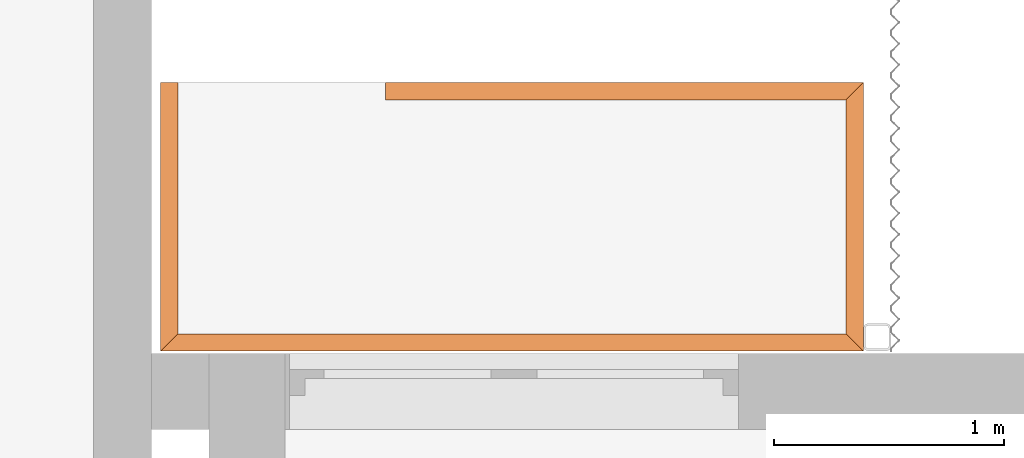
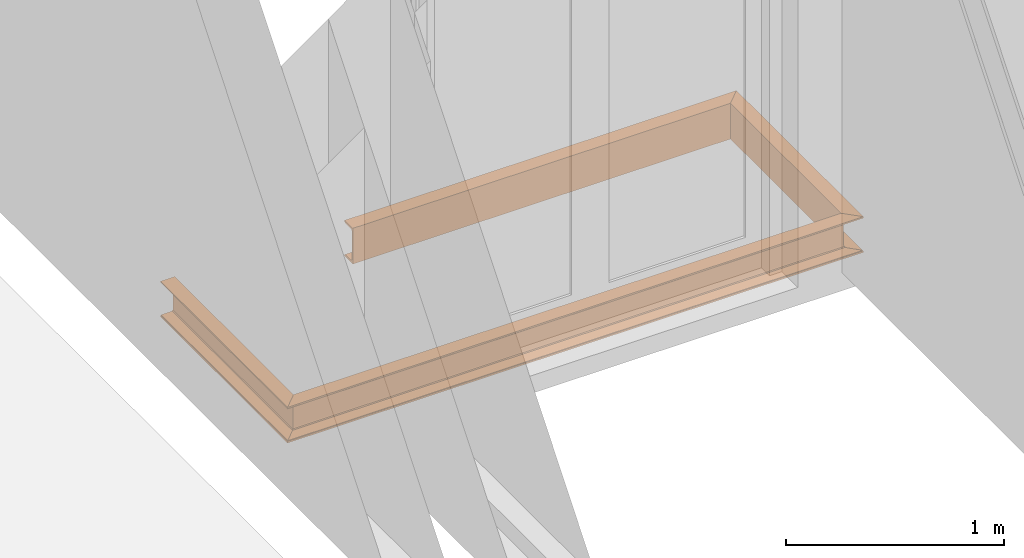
# One storey, part 93 of 99: 4 proxies.
"""IFC2X3 building model written with IfcOpenShell, lengths in millimetres."""

from ifc_helpers import new_model, entity, si_unit, converted_unit, derived_unit, money_unit, direction, frame, origin_with_axes, place, context, subcontext, project, spatial, faceted_brep, material, type_object, element, save


model = new_model("IFC2X3")

# Units and contexts
model_context = context("Model", 3, precision=0.01, world=origin_with_axes(), true_north=direction((0.0, 1.0)))
body_context = subcontext(model_context, "Body", "Model", "MODEL_VIEW")
ifc_project = project(units=[si_unit("LENGTHUNIT", "METRE", prefix="MILLI"), si_unit("AREAUNIT", "SQUARE_METRE"), si_unit("VOLUMEUNIT", "CUBIC_METRE"), converted_unit("PLANEANGLEUNIT", "DEGREE", entity("IfcPlaneAngleMeasure", 0.0174532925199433), si_unit("PLANEANGLEUNIT", "RADIAN"), dimensions=[0, 0, 0, 0, 0, 0, 0]), money_unit("EUR"), converted_unit("TIMEUNIT", "Year", entity("IfcTimeMeasure", 31557600.0), si_unit("TIMEUNIT", "SECOND"), dimensions=[0, 0, 1, 0, 0, 0, 0]), si_unit("MASSUNIT", "GRAM", prefix="KILO"), si_unit("THERMODYNAMICTEMPERATUREUNIT", "DEGREE_CELSIUS"), si_unit("LUMINOUSINTENSITYUNIT", "LUMEN"), si_unit("ENERGYUNIT", "JOULE", prefix="MEGA"), derived_unit("THERMALCONDUCTANCEUNIT", [(si_unit("POWERUNIT", "WATT"), 1), (si_unit("LENGTHUNIT", "METRE"), -1), (si_unit("THERMODYNAMICTEMPERATUREUNIT", "KELVIN"), -1)]), derived_unit("SPECIFICHEATCAPACITYUNIT", [(si_unit("ENERGYUNIT", "JOULE"), 1), (si_unit("MASSUNIT", "GRAM", prefix="KILO"), -1), (si_unit("THERMODYNAMICTEMPERATUREUNIT", "KELVIN"), -1)]), derived_unit("MASSDENSITYUNIT", [(si_unit("MASSUNIT", "GRAM", prefix="KILO"), 1), (si_unit("VOLUMEUNIT", "CUBIC_METRE"), -1)])], contexts=[model_context])

# Site, building, storey
site_placement = place(None, origin_with_axes())
site = spatial("IfcSite", under=ifc_project, at=site_placement, Name="Site", CompositionType="ELEMENT")
building_placement = place(site_placement, origin_with_axes())
building = spatial("IfcBuilding", under=site, at=building_placement, Name="Naam gebouw", CompositionType="ELEMENT")
storey_placement = place(building_placement, frame((0.0, 0.0, 7650.0), z_axis=(0.0, 0.0, 1.0), x_axis=(1.0, 0.0, 0.0)))
storey = spatial("IfcBuildingStorey", under=building, at=storey_placement, Name="2e verdieping N", CompositionType="ELEMENT", Elevation=7650.0)

# Proxies
ifc_material = material(Name="Metaal - Staal AFW")
building_element_proxy_type = type_object("IfcBuildingElementProxyType", Name="UPN balk 27", PredefinedType="NOTDEFINED")
proxy_1_placement = place(storey_placement, frame((-1272.499999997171, 20373.32979156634, -200.0000000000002), z_axis=(0.0, 0.0, 1.0), x_axis=(0.0, 1.0, 0.0)))
element("IfcBuildingElementProxy", 1, at=proxy_1_placement, inside=storey, type_object=building_element_proxy_type, material=ifc_material, Name="_Boom-x", context=body_context, shape_type="Brep", body=[
    faceted_brep([(0.0, 0.0, 200.0), (37.49999999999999, -37.5, 200.0), (1127.499999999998, -37.50000000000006, 200.0000000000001), (1127.499999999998, 37.49999999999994, 200.0000000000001), (-37.49999999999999, 37.50000000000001, 200.0), (0.0, 0.0, 188.5), (17.49999999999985, -17.5, 188.5), (23.24999999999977, -23.25, 186.959292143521), (27.45929214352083, -27.45929214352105, 182.75), (28.99999999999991, -29.0, 177.0), (28.99999999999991, -29.0, 23.00000000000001), (27.45929214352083, -27.45929214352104, 17.25), (23.24999999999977, -23.25, 13.04070785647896), (17.49999999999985, -17.5, 11.50000000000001), (0.0, 0.0, 11.50000000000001), (-31.49999999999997, 31.5, 11.49999999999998), (-34.49999999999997, 34.5, 10.69615242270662), (-36.69615242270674, 36.69615242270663, 8.499999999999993), (-37.49999999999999, 37.50000000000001, 5.499999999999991), (-37.49999999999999, 37.50000000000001, 0.0), (0.0, 0.0, 0.0), (37.49999999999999, -37.5, 0.0), (-37.49999999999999, 37.50000000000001, 194.5000000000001), (-36.69615242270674, 36.69615242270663, 191.5000000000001), (-34.49999999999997, 34.5, 189.3038475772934), (-31.49999999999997, 31.5, 188.5000000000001), (1127.499999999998, -37.50000000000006, 0.0), (1127.499999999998, 34.49999999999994, 189.3038475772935), (1127.499999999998, 36.69615242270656, 191.5000000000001), (1127.499999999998, 37.49999999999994, 194.5000000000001), (1127.499999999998, 37.49999999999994, 0.0), (1127.499999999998, 37.49999999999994, 5.50000000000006), (1127.499999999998, 36.69615242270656, 8.500000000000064), (1127.499999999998, 34.49999999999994, 10.69615242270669), (1127.499999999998, 31.49999999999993, 11.50000000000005), (1127.499999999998, -17.50000000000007, 11.50000000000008), (1127.499999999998, -23.25000000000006, 13.04070785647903), (1127.499999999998, -27.45929214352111, 17.25000000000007), (1127.499999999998, -29.00000000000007, 23.00000000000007), (1127.499999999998, -29.00000000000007, 177.0000000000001), (1127.499999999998, -27.45929214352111, 182.7500000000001), (1127.499999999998, -23.25000000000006, 186.9592921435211), (1127.499999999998, -17.50000000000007, 188.5000000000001), (1127.499999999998, 31.49999999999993, 188.5000000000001)], [[[0, 1, 2, 3, 4]], [[5, 6, 7, 8, 9, 10, 11, 12, 13, 14, 15, 16, 17, 18, 19, 20, 21, 1, 0, 4, 22, 23, 24, 25]], [[1, 21, 26, 2]], [[27, 28, 29, 3, 2, 26, 30, 31, 32, 33, 34, 35, 36, 37, 38, 39, 40, 41, 42, 43]], [[4, 3, 29, 22]], [[6, 5, 25, 43, 42]], [[7, 6, 42, 41]], [[8, 7, 41, 40]], [[9, 8, 40, 39]], [[10, 9, 39, 38]], [[11, 10, 38, 37]], [[12, 11, 37, 36]], [[13, 12, 36, 35]], [[14, 13, 35, 34, 15]], [[15, 34, 33, 16]], [[16, 33, 32, 17]], [[17, 32, 31, 18]], [[18, 31, 30, 19]], [[21, 20, 19, 30, 26]], [[22, 29, 28, 23]], [[23, 28, 27, 24]], [[24, 27, 43, 25]]]),
])
proxy_2_placement = place(storey_placement, frame((-1272.499999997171, 20373.32979156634, -200.0000000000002), z_axis=(0.0, 0.0, 1.0), x_axis=(-1.0, 0.0, 0.0)))
element("IfcBuildingElementProxy", 2, at=proxy_2_placement, inside=storey, type_object=building_element_proxy_type, material=ifc_material, Name="_Boom-x", context=body_context, shape_type="Brep", body=[
    faceted_brep([(-2937.499999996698, -37.50000000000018, 200.0000000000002), (-37.50000000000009, -37.49999999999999, 200.0), (37.49999999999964, 37.50000000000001, 200.0), (-3012.499999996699, 37.49999999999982, 200.0000000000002), (-2974.999999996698, 0.0, 200.0000000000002), (-2937.499999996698, -37.50000000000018, 0.0), (-37.50000000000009, -37.49999999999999, 0.0), (37.49999999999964, 37.50000000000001, 0.0), (37.49999999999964, 37.50000000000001, 5.499999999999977), (36.69615242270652, 36.69615242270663, 8.49999999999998), (34.49999999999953, 34.5, 10.69615242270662), (31.50000000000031, 31.5, 11.49999999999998), (-17.50000000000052, -17.5, 11.5), (-23.25000000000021, -23.25, 13.04070785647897), (-27.45929214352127, -27.45929214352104, 17.25000000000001), (-29.00000000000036, -29.0, 23.00000000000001), (-29.00000000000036, -29.0, 177.0), (-27.45929214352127, -27.45929214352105, 182.75), (-23.25000000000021, -23.25, 186.959292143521), (-17.50000000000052, -17.5, 188.5), (31.50000000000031, 31.5, 188.5), (34.49999999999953, 34.5, 189.3038475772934), (36.69615242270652, 36.69615242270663, 191.5), (37.49999999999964, 37.50000000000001, 194.5), (-3012.499999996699, 37.49999999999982, 194.5000000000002), (-2974.999999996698, 0.0, 11.50000000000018), (-3006.499999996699, 31.49999999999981, 11.50000000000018), (-3009.499999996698, 34.49999999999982, 10.69615242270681), (-3011.696152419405, 36.69615242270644, 8.500000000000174), (-3012.499999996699, 37.49999999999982, 5.500000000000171), (-3012.499999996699, 37.49999999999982, 0.0), (-2974.999999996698, 0.0, 0.0), (-3011.696152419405, 36.69615242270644, 191.5000000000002), (-3009.499999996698, 34.49999999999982, 189.3038475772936), (-3006.499999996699, 31.49999999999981, 188.5000000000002), (-2974.999999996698, 0.0, 188.5000000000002), (-2957.499999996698, -17.50000000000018, 188.5000000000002), (-2951.749999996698, -23.25000000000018, 186.9592921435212), (-2947.540707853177, -27.45929214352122, 182.7500000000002), (-2945.999999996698, -29.00000000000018, 177.0000000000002), (-2945.999999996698, -29.00000000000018, 23.00000000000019), (-2947.540707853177, -27.45929214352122, 17.2500000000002), (-2951.749999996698, -23.25000000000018, 13.04070785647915), (-2957.499999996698, -17.50000000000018, 11.50000000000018)], [[[0, 1, 2, 3, 4]], [[5, 6, 1, 0]], [[1, 6, 7, 8, 9, 10, 11, 12, 13, 14, 15, 16, 17, 18, 19, 20, 21, 22, 23, 2]], [[24, 3, 2, 23]], [[25, 26, 27, 28, 29, 30, 31, 5, 0, 4, 3, 24, 32, 33, 34, 35, 36, 37, 38, 39, 40, 41, 42, 43]], [[31, 30, 7, 6, 5]], [[30, 29, 8, 7]], [[29, 28, 9, 8]], [[28, 27, 10, 9]], [[27, 26, 11, 10]], [[43, 12, 11, 26, 25]], [[42, 13, 12, 43]], [[41, 14, 13, 42]], [[40, 15, 14, 41]], [[39, 16, 15, 40]], [[38, 17, 16, 39]], [[37, 18, 17, 38]], [[36, 19, 18, 37]], [[35, 34, 20, 19, 36]], [[34, 33, 21, 20]], [[33, 32, 22, 21]], [[32, 24, 23, 22]]]),
])
proxy_3_placement = place(storey_placement, frame((1702.499999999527, 21463.32979156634, -200.0000000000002), z_axis=(0.0, 0.0, 1.0), x_axis=(1.0, 0.0, 0.0)))
element("IfcBuildingElementProxy", 3, at=proxy_3_placement, inside=storey, type_object=building_element_proxy_type, material=ifc_material, Name="_Boom-x", context=body_context, shape_type="Brep", body=[
    faceted_brep([(0.0, 0.0, 200.0), (37.49999999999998, 37.50000000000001, 200.0), (-2037.499999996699, 37.49999999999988, 200.0000000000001), (-2037.499999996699, -37.50000000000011, 200.0000000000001), (-37.49999999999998, -37.5, 200.0), (0.0, 0.0, 188.5), (31.50000000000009, 31.5, 188.5), (34.49999999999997, 34.5, 189.3038475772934), (36.69615242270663, 36.69615242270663, 191.5), (37.49999999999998, 37.50000000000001, 194.5), (-37.49999999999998, -37.5, 0.0), (0.0, 0.0, 0.0), (37.49999999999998, 37.50000000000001, 0.0), (37.49999999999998, 37.50000000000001, 5.499999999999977), (36.69615242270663, 36.69615242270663, 8.49999999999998), (34.49999999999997, 34.5, 10.69615242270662), (31.50000000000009, 31.5, 11.49999999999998), (0.0, 0.0, 11.50000000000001), (-17.50000000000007, -17.5, 11.50000000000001), (-23.24999999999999, -23.25, 13.04070785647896), (-27.45929214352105, -27.45929214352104, 17.25), (-28.99999999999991, -29.0, 23.00000000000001), (-28.99999999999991, -29.0, 177.0), (-27.45929214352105, -27.45929214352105, 182.75), (-23.24999999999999, -23.25, 186.959292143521), (-17.50000000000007, -17.5, 188.5), (-2037.499999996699, 37.49999999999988, 194.5000000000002), (-2037.499999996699, 34.49999999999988, 189.3038475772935), (-2037.499999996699, 31.49999999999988, 188.5000000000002), (-2037.499999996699, -17.50000000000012, 188.5000000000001), (-2037.499999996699, -23.25000000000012, 186.9592921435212), (-2037.499999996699, -27.45929214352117, 182.7500000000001), (-2037.499999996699, -29.00000000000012, 177.0000000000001), (-2037.499999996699, -29.00000000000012, 23.00000000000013), (-2037.499999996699, -27.45929214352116, 17.25000000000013), (-2037.499999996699, -23.25000000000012, 13.04070785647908), (-2037.499999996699, -17.50000000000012, 11.50000000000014), (-2037.499999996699, 31.49999999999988, 11.50000000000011), (-2037.499999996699, 34.49999999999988, 10.69615242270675), (-2037.499999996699, 36.6961524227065, 8.500000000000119), (-2037.499999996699, 37.49999999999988, 5.500000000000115), (-2037.499999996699, 37.49999999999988, 0.0), (-2037.499999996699, -37.50000000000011, 0.0), (-2037.499999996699, 36.6961524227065, 191.5000000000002)], [[[0, 1, 2, 3, 4]], [[5, 6, 7, 8, 9, 1, 0, 4, 10, 11, 12, 13, 14, 15, 16, 17, 18, 19, 20, 21, 22, 23, 24, 25]], [[1, 9, 26, 2]], [[27, 28, 29, 30, 31, 32, 33, 34, 35, 36, 37, 38, 39, 40, 41, 42, 3, 2, 26, 43]], [[4, 3, 42, 10]], [[25, 29, 28, 6, 5]], [[7, 6, 28, 27]], [[8, 7, 27, 43]], [[9, 8, 43, 26]], [[10, 42, 41, 12, 11]], [[13, 12, 41, 40]], [[14, 13, 40, 39]], [[15, 14, 39, 38]], [[16, 15, 38, 37]], [[17, 16, 37, 36, 18]], [[18, 36, 35, 19]], [[19, 35, 34, 20]], [[20, 34, 33, 21]], [[21, 33, 32, 22]], [[22, 32, 31, 23]], [[23, 31, 30, 24]], [[24, 30, 29, 25]]]),
])
proxy_4_placement = place(storey_placement, frame((1702.499999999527, 20373.32979156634, -200.0000000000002), z_axis=(0.0, 0.0, 1.0), x_axis=(0.0, -1.0, 0.0)))
element("IfcBuildingElementProxy", 4, at=proxy_4_placement, inside=storey, type_object=building_element_proxy_type, material=ifc_material, Name="_Boom-x", context=body_context, shape_type="Brep", body=[
    faceted_brep([(-1052.5, -37.50000000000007, 200.0000000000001), (-37.49999999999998, -37.5, 199.9999999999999), (37.49999999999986, 37.50000000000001, 200.0), (-1127.5, 37.49999999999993, 200.0000000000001), (-1090.0, 0.0, 200.0000000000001), (-1052.5, -37.50000000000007, 0.0), (-37.49999999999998, -37.5, 0.0), (37.49999999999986, 37.50000000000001, 0.0), (37.49999999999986, 37.50000000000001, 5.499999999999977), (36.69615242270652, 36.69615242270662, 8.49999999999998), (34.49999999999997, 34.49999999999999, 10.69615242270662), (31.50000000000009, 31.49999999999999, 11.49999999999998), (-17.50000000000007, -17.5, 11.50000000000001), (-23.25000000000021, -23.25, 13.04070785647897), (-27.45929214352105, -27.45929214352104, 17.25), (-29.00000000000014, -29.0, 23.00000000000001), (-29.00000000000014, -29.0, 177.0), (-27.45929214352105, -27.45929214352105, 182.75), (-23.25000000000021, -23.25, 186.959292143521), (-17.50000000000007, -17.5, 188.5), (31.50000000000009, 31.49999999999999, 188.5), (34.49999999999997, 34.49999999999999, 189.3038475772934), (36.69615242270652, 36.69615242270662, 191.5), (37.49999999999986, 37.50000000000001, 194.5), (-1127.5, 37.49999999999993, 194.5000000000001), (-1090.0, 0.0, 11.50000000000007), (-1121.5, 31.49999999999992, 11.50000000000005), (-1124.5, 34.49999999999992, 10.69615242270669), (-1126.696152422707, 36.69615242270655, 8.50000000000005), (-1127.5, 37.49999999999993, 5.500000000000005), (-1127.5, 37.49999999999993, 0.0), (-1090.0, 0.0, 0.0), (-1126.696152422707, 36.69615242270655, 191.5000000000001), (-1124.5, 34.49999999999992, 189.3038475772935), (-1121.5, 31.49999999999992, 188.5000000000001), (-1090.0, 0.0, 188.5000000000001), (-1072.5, -17.50000000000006, 188.5000000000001), (-1066.75, -23.25000000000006, 186.9592921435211), (-1062.540707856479, -27.45929214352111, 182.7500000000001), (-1061.0, -29.00000000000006, 177.0000000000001), (-1061.0, -29.00000000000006, 23.00000000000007), (-1062.540707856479, -27.45929214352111, 17.25000000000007), (-1066.75, -23.25000000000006, 13.04070785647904), (-1072.5, -17.50000000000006, 11.50000000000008)], [[[0, 1, 2, 3, 4]], [[5, 6, 1, 0]], [[1, 6, 7, 8, 9, 10, 11, 12, 13, 14, 15, 16, 17, 18, 19, 20, 21, 22, 23, 2]], [[24, 3, 2, 23]], [[25, 26, 27, 28, 29, 30, 31, 5, 0, 4, 3, 24, 32, 33, 34, 35, 36, 37, 38, 39, 40, 41, 42, 43]], [[31, 30, 7, 6, 5]], [[30, 29, 8, 7]], [[29, 28, 9, 8]], [[28, 27, 10, 9]], [[27, 26, 11, 10]], [[43, 12, 11, 26, 25]], [[42, 13, 12, 43]], [[41, 14, 13, 42]], [[40, 15, 14, 41]], [[39, 16, 15, 40]], [[38, 17, 16, 39]], [[37, 18, 17, 38]], [[36, 19, 18, 37]], [[35, 34, 20, 19, 36]], [[34, 33, 21, 20]], [[33, 32, 22, 21]], [[32, 24, 23, 22]]]),
])

save(model, "model.ifc")
